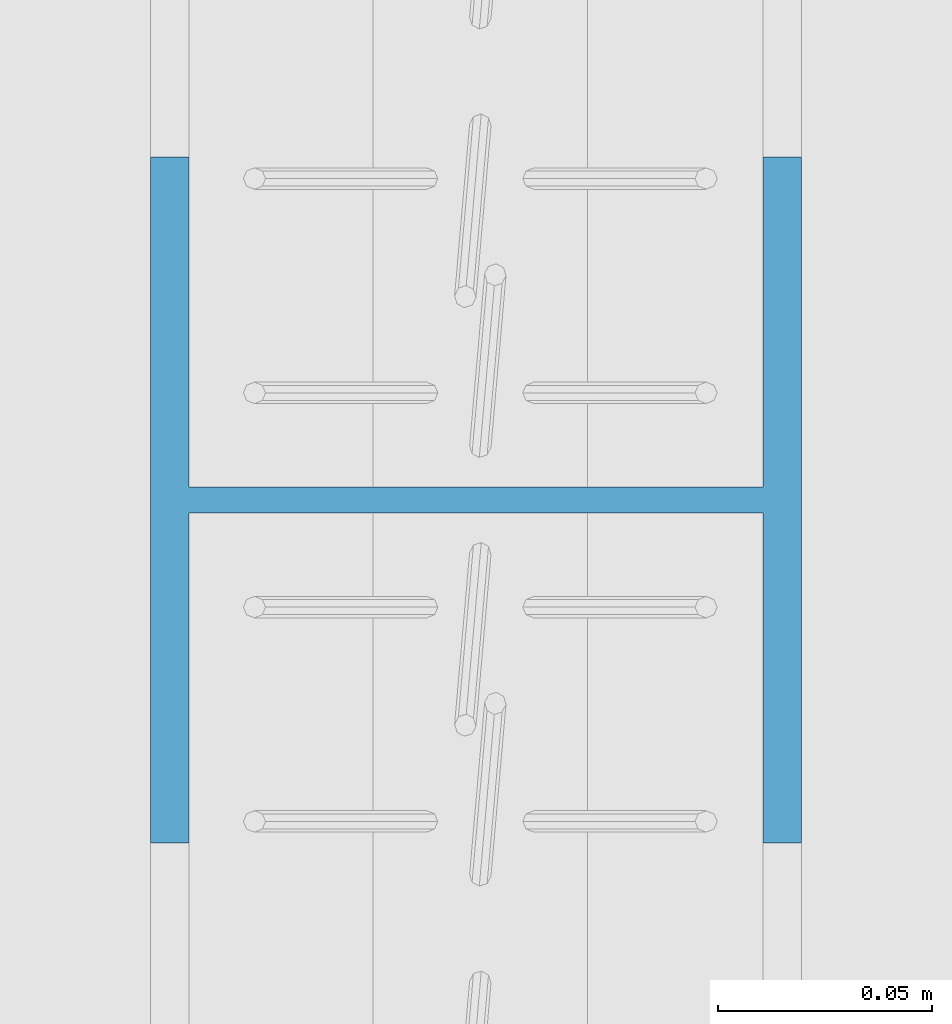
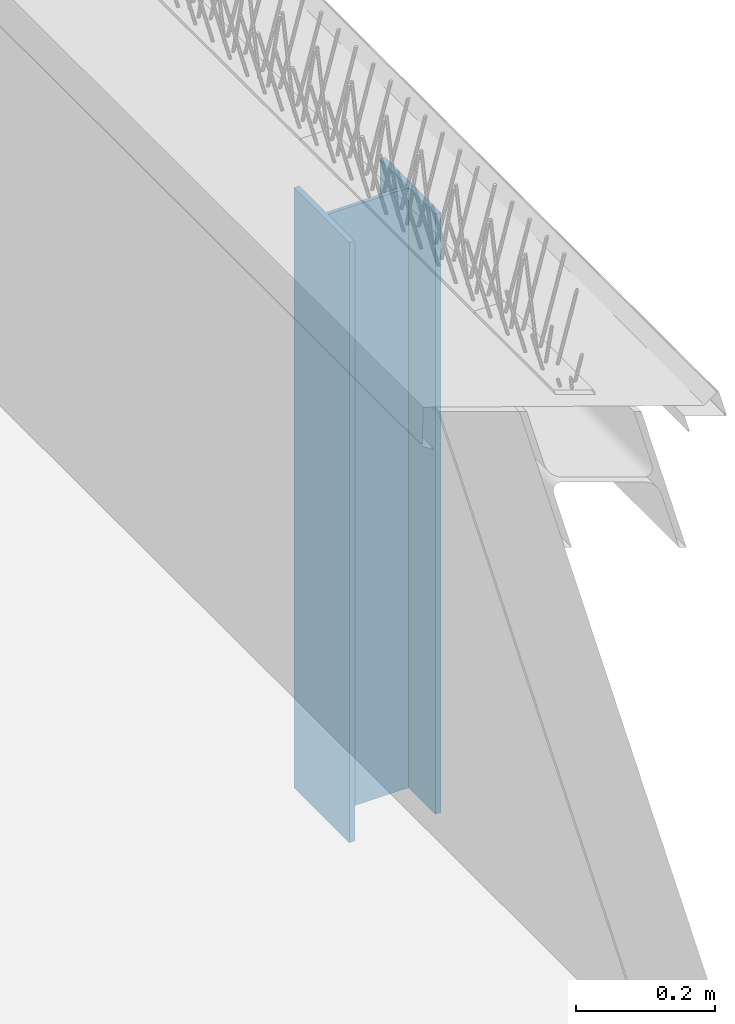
# One storey, part 6 of 81: 1 column.
"""IFC2X3 building model written with IfcOpenShell, lengths in millimetres."""

import ifcopenshell
import ifcopenshell.guid

model = None  # the IFC model being written
_history = None  # IfcOwnerHistory: only IFC2X3 demands one
_inside = {}  # id of a spatial element -> (the spatial element, [elements in it])
_under = {}  # id of a project, library or spatial element -> (it, [spatial elements below it])
_declared = {}  # id of a project -> (the project, [libraries it declares])
_typed = {}  # id of a type object -> (the type object, [elements of that type])
_made_of = {}  # id of a material, layer set ... -> (it, [elements and type objects made of it])


def new_model(schema):
    """Start an empty IFC model of exactly this schema.

    Asked for "IFC4X3", IfcOpenShell would pick the latest addendum, in which some entities
    have other attributes; the version numbers below select the first issue.
    IFC2X3 requires an IfcOwnerHistory on every rooted entity: one is made here for all.
    """
    global model, _history
    if schema == "IFC4X3":
        model = ifcopenshell.file(schema_version=(4, 3, 0, 0))
    else:
        model = ifcopenshell.file(schema=schema)
    _inside.clear()
    _under.clear()
    _declared.clear()
    _typed.clear()
    _made_of.clear()
    _history = None
    if model.schema == "IFC2X3":
        org = make("IfcOrganization", Name="unknown")
        user = make(
            "IfcPersonAndOrganization",
            ThePerson=make("IfcPerson", FamilyName="unknown"),
            TheOrganization=org,
        )
        app = make(
            "IfcApplication",
            ApplicationDeveloper=org,
            Version="unknown",
            ApplicationFullName="unknown",
            ApplicationIdentifier="unknown",
        )
        _history = make(
            "IfcOwnerHistory",
            OwningUser=user,
            OwningApplication=app,
            ChangeAction="ADDED",
            CreationDate=0,
        )
    return model


def make(cls, **values):
    """One entity of the class cls with the attributes given. An attribute that is None is left unset."""
    return model.create_entity(
        cls, **{name: value for name, value in values.items() if value is not None}
    )


def entity(cls, *values):
    """Any entity or typed value of the class cls, its attributes in the order of the schema. None: left unset."""
    e = model.create_entity(cls)
    for i, value in enumerate(values):
        if value is not None:
            e[i] = value
    return e


def rooted(cls, **values):
    """An entity with a GlobalId (a new one), such as an element, a storey or a relation."""
    return make(cls, GlobalId=ifcopenshell.guid.new(), OwnerHistory=_history, **values)


def si_unit(unit_type, name, prefix=None):
    """IfcSIUnit, for example si_unit("LENGTHUNIT", "METRE", prefix="MILLI")."""
    return make("IfcSIUnit", UnitType=unit_type, Prefix=prefix, Name=name)


def converted_unit(unit_type, name, factor, base, dimensions=None, offset=None):
    """IfcConversionBasedUnit, such as the inch: factor (a typed value) times the base unit."""
    return make(
        "IfcConversionBasedUnit"
        if offset is None
        else "IfcConversionBasedUnitWithOffset",
        ConversionOffset=offset,
        Dimensions=None
        if dimensions is None
        else entity("IfcDimensionalExponents", *dimensions),
        UnitType=unit_type,
        Name=name,
        ConversionFactor=make(
            "IfcMeasureWithUnit", ValueComponent=factor, UnitComponent=base
        ),
    )


def derived_unit(unit_type, elements):
    """IfcDerivedUnit: a product of units, each with its exponent."""
    return make(
        "IfcDerivedUnit",
        Elements=[
            make("IfcDerivedUnitElement", Unit=unit, Exponent=power)
            for unit, power in elements
        ],
        UnitType=unit_type,
    )


def money_unit(currency):
    """IfcMonetaryUnit."""
    return make("IfcMonetaryUnit", Currency=currency)


def assignment(units):
    """IfcUnitAssignment: the units of a project."""
    return None if units is None else make("IfcUnitAssignment", Units=units)


def point(xyz):
    """IfcCartesianPoint."""
    return None if xyz is None else make("IfcCartesianPoint", Coordinates=xyz)


def direction(xyz):
    """IfcDirection."""
    return None if xyz is None else make("IfcDirection", DirectionRatios=xyz)


def frame(location, z_axis=None, x_axis=None):
    """IfcAxis2Placement3D, a coordinate frame: its origin and axes. An axis left out is left unset."""
    return make(
        "IfcAxis2Placement3D",
        Location=point(location),
        Axis=direction(z_axis),
        RefDirection=direction(x_axis),
    )


def origin_with_axes():
    """The frame at (0, 0, 0) with the z axis (0, 0, 1) and the x axis (1, 0, 0) written out."""
    return frame((0.0, 0.0, 0.0), z_axis=(0.0, 0.0, 1.0), x_axis=(1.0, 0.0, 0.0))


def place(relative_to, where):
    """IfcLocalPlacement: puts the frame where relative to a parent placement (None: the world)."""
    return make(
        "IfcLocalPlacement", PlacementRelTo=relative_to, RelativePlacement=where
    )


def context(
    kind, dimensions, precision=None, world=None, true_north=None, identifier=None
):
    """IfcGeometricRepresentationContext, for example the 3D "Model" context."""
    return make(
        "IfcGeometricRepresentationContext",
        ContextIdentifier=identifier,
        ContextType=kind,
        CoordinateSpaceDimension=dimensions,
        Precision=precision,
        WorldCoordinateSystem=world,
        TrueNorth=true_north,
    )


def subcontext(parent, identifier, kind, view, scale=None):
    """IfcGeometricRepresentationSubContext, for example "Body" below "Model"."""
    return make(
        "IfcGeometricRepresentationSubContext",
        ContextIdentifier=identifier,
        ContextType=kind,
        ParentContext=parent,
        TargetScale=scale,
        TargetView=view,
    )


def project(units=None, contexts=None):
    """IfcProject with its units and contexts."""
    return rooted(
        "IfcProject",
        Name="project",
        RepresentationContexts=contexts,
        UnitsInContext=assignment(units),
    )


def spatial(cls, under=None, at=None, **own):
    """A site, building, storey or space (cls), placed at a placement, below another one or the project."""
    s = rooted(cls, ObjectPlacement=at, **own)
    if under is not None:
        _under.setdefault(under.id(), (under, []))[1].append(s)
    return s


def faces_of(points, faces, orient=None, outer=None):
    """IfcFace entities. A face is a list of loops; a loop is a list of indices into points, from 0.

    orient and outer hold one flag for each loop. By default every Orientation is true, the
    first loop of a face is its IfcFaceOuterBound and the others are IfcFaceBound.
    """
    made = []
    for i, loops in enumerate(faces):
        bounds = []
        for j, loop in enumerate(loops):
            is_outer = j == 0 if outer is None else outer[i][j]
            bounds.append(
                make(
                    "IfcFaceOuterBound" if is_outer else "IfcFaceBound",
                    Bound=make("IfcPolyLoop", Polygon=[points[k] for k in loop]),
                    Orientation=True if orient is None else orient[i][j],
                )
            )
        made.append(make("IfcFace", Bounds=bounds))
    return made


def faceted_brep(points, faces, orient=None, outer=None, voids=None):
    """IfcFacetedBrep: a solid bounded by flat faces; with voids (closed shells), ...WithVoids."""
    shared = [point(p) for p in points]
    hull = make("IfcClosedShell", CfsFaces=faces_of(shared, faces, orient, outer))
    if voids is None:
        return make("IfcFacetedBrep", Outer=hull)
    return make(
        "IfcFacetedBrepWithVoids",
        Outer=hull,
        Voids=[
            make(cls, CfsFaces=faces_of(shared, fs, o, b)) for cls, fs, o, b in voids
        ],
    )


def shape(context_of_items, identifier, shape_type, items):
    """IfcShapeRepresentation: the items that make up one representation, for example the "Body"."""
    return make(
        "IfcShapeRepresentation",
        ContextOfItems=context_of_items,
        RepresentationIdentifier=identifier,
        RepresentationType=shape_type,
        Items=items,
    )


def material(Name=None, Category=None):
    """IfcMaterial."""
    return make("IfcMaterial", Name=Name, Category=Category)


def made_of(thing, what):
    """Note that an element or type object is made of a material, layer set ...; save() writes the relation."""
    if what is not None:
        _made_of.setdefault(what.id(), (what, []))[1].append(thing)
    return thing


def type_object(cls, material=None, **own):
    """A type object (cls), such as IfcWallType, which elements share."""
    return made_of(rooted(cls, **own), material)


def element(
    cls,
    number,
    at=None,
    inside=None,
    cuts=None,
    type_object=None,
    material=None,
    context=None,
    identifier="Body",
    shape_type=None,
    held_by="IfcProductDefinitionShape",
    body=None,
    shapes=None,
    **own,
):
    """One element of the class cls, such as IfcWall. Its Tag is "e" and its number.

    at: its placement. inside: the storey or other place that contains it. cuts: it is an
    opening in that element (IfcRelVoidsElement). A single representation is given by context,
    identifier, shape_type and body (its items); several are given by shapes. held_by: the class
    of the entity that holds the representations. save() writes the other relations.
    """
    e = rooted(cls, Tag="e%d" % number, ObjectPlacement=at, **own)
    if body is not None:
        shapes = [shape(context, identifier, shape_type, body)]
    if shapes is not None:
        e.Representation = make(held_by, Representations=shapes)
    if inside is not None:
        _inside.setdefault(inside.id(), (inside, []))[1].append(e)
    if cuts is not None:
        rooted(
            "IfcRelVoidsElement", RelatingBuildingElement=cuts, RelatedOpeningElement=e
        )
    if type_object is not None:
        _typed.setdefault(type_object.id(), (type_object, []))[1].append(e)
    return made_of(e, material)


def aggregate(whole, parts):
    """IfcRelAggregates: a whole, such as a stair, and the parts it consists of."""
    return rooted("IfcRelAggregates", RelatingObject=whole, RelatedObjects=parts)


def save(model, path):
    """Write the relations noted so far, then the file.

    IfcRelAggregates (storeys below a building ...), IfcRelContainedInSpatialStructure (elements
    in a storey), IfcRelDefinesByType, IfcRelAssociatesMaterial and IfcRelDeclares: one each for
    every whole, place, type object, material and project.
    """
    for whole, parts in _under.values():
        aggregate(whole, parts)
    for where, things in _inside.values():
        rooted(
            "IfcRelContainedInSpatialStructure",
            RelatedElements=things,
            RelatingStructure=where,
        )
    for kind, things in _typed.values():
        rooted("IfcRelDefinesByType", RelatedObjects=things, RelatingType=kind)
    for what, things in _made_of.values():
        rooted("IfcRelAssociatesMaterial", RelatedObjects=things, RelatingMaterial=what)
    for by, libraries in _declared.values():
        rooted("IfcRelDeclares", RelatingContext=by, RelatedDefinitions=libraries)
    model.write(path)


model = new_model("IFC2X3")

# Units and contexts
model_context = context("Model", 3, precision=0.01, world=origin_with_axes(), true_north=direction((0.0, 1.0)))
body_context = subcontext(model_context, "Body", "Model", "MODEL_VIEW")
ifc_project = project(units=[si_unit("LENGTHUNIT", "METRE", prefix="MILLI"), si_unit("AREAUNIT", "SQUARE_METRE"), si_unit("VOLUMEUNIT", "CUBIC_METRE"), converted_unit("PLANEANGLEUNIT", "DEGREE", entity("IfcPlaneAngleMeasure", 0.0174532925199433), si_unit("PLANEANGLEUNIT", "RADIAN"), dimensions=[0, 0, 0, 0, 0, 0, 0]), money_unit("EUR"), converted_unit("TIMEUNIT", "Year", entity("IfcTimeMeasure", 31557600.0), si_unit("TIMEUNIT", "SECOND"), dimensions=[0, 0, 1, 0, 0, 0, 0]), si_unit("MASSUNIT", "GRAM", prefix="KILO"), si_unit("THERMODYNAMICTEMPERATUREUNIT", "DEGREE_CELSIUS"), si_unit("LUMINOUSINTENSITYUNIT", "LUMEN"), si_unit("ENERGYUNIT", "JOULE", prefix="MEGA"), derived_unit("THERMALCONDUCTANCEUNIT", [(si_unit("POWERUNIT", "WATT"), 1), (si_unit("LENGTHUNIT", "METRE"), -1), (si_unit("THERMODYNAMICTEMPERATUREUNIT", "KELVIN"), -1)]), derived_unit("SPECIFICHEATCAPACITYUNIT", [(si_unit("ENERGYUNIT", "JOULE"), 1), (si_unit("MASSUNIT", "GRAM", prefix="KILO"), -1), (si_unit("THERMODYNAMICTEMPERATUREUNIT", "KELVIN"), -1)]), derived_unit("MASSDENSITYUNIT", [(si_unit("MASSUNIT", "GRAM", prefix="KILO"), 1), (si_unit("VOLUMEUNIT", "CUBIC_METRE"), -1)])], contexts=[model_context])

# Site, building, storey
site_placement = place(None, origin_with_axes())
site = spatial("IfcSite", under=ifc_project, at=site_placement, Name="Site", CompositionType="ELEMENT")
building_placement = place(site_placement, origin_with_axes())
building = spatial("IfcBuilding", under=site, at=building_placement, Name="Naam gebouw", CompositionType="ELEMENT")
storey_placement = place(building_placement, frame((0.0, 0.0, 15320.0), z_axis=(0.0, 0.0, 1.0), x_axis=(1.0, 0.0, 0.0)))
storey = spatial("IfcBuildingStorey", under=building, at=storey_placement, Name="01 dak", CompositionType="ELEMENT", Elevation=15320.0)

# Column
ifc_material = material(Name="Metaal - Staal C")
column_type = type_object("IfcColumnType", Name="HEA160 160 x 152", PredefinedType="COLUMN")
column_placement = place(storey_placement, frame((68423.99999999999, 51600.00000000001, -400.0393597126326), z_axis=(0.0, 0.0, 1.0), x_axis=(0.0, -1.0, 0.0)))
element("IfcColumn", 1, at=column_placement, inside=storey, type_object=column_type, material=ifc_material, Name="HEA160", ObjectType="COLUMN", context=body_context, shape_type="Brep", body=[
    faceted_brep([(-79.9999999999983, 75.9999999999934, 1055.0), (-79.9999999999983, 75.9999999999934, 0.0), (-79.9999999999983, 66.99999999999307, 0.0), (-79.9999999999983, 66.99999999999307, 1055.0), (79.9999999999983, 75.9999999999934, 1055.0), (79.9999999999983, 75.9999999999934, 0.0), (79.9999999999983, 66.99999999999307, 0.0), (3.000000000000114, 66.99999999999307, 0.0), (3.000000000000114, -66.99999999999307, 0.0), (79.9999999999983, -66.99999999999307, 0.0), (79.9999999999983, -75.9999999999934, 0.0), (-79.9999999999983, -75.9999999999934, 0.0), (-79.9999999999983, -66.99999999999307, 0.0), (-3.000000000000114, -66.99999999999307, 0.0), (-3.000000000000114, 66.99999999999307, 0.0), (-3.000000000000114, 66.99999999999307, 1055.0), (-3.000000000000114, -66.99999999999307, 1055.0), (-79.9999999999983, -66.99999999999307, 1055.0), (-79.9999999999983, -75.9999999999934, 1055.0), (79.9999999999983, -75.9999999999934, 1055.0), (79.9999999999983, -66.99999999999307, 1055.0), (3.000000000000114, -66.99999999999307, 1055.0), (3.000000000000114, 66.99999999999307, 1055.0), (79.9999999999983, 66.99999999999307, 1055.0)], [[[0, 1, 2, 3]], [[4, 5, 1, 0]], [[2, 1, 5, 6, 7, 8, 9, 10, 11, 12, 13, 14]], [[3, 2, 14, 15]], [[4, 0, 3, 15, 16, 17, 18, 19, 20, 21, 22, 23]], [[23, 6, 5, 4]], [[22, 7, 6, 23]], [[21, 8, 7, 22]], [[20, 9, 8, 21]], [[19, 10, 9, 20]], [[18, 11, 10, 19]], [[17, 12, 11, 18]], [[16, 13, 12, 17]], [[15, 14, 13, 16]]]),
])

save(model, "model.ifc")
